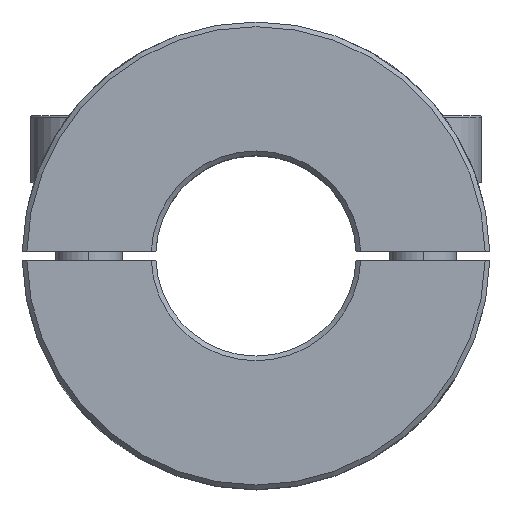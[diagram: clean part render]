
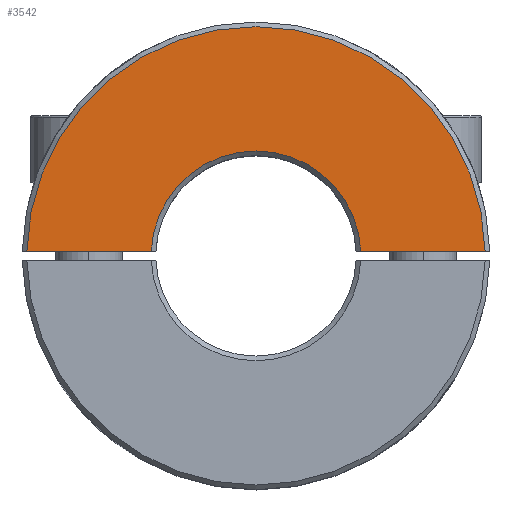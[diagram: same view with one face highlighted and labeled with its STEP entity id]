
A CAD part, top view. The second image highlights one B-rep face of the part: STEP entity #3542.
In plain terms, the highlighted planar face has unit normal (0, 0, 1).
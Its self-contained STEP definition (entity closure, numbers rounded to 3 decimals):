
#93 = DIRECTION ( 'NONE',  ( -1., 0., 0. ) ) ;
#116 = CARTESIAN_POINT ( 'NONE',  ( 0., 0., 11. ) ) ;
#231 = VERTEX_POINT ( 'NONE', #3385 ) ;
#273 = VERTEX_POINT ( 'NONE', #1892 ) ;
#401 = AXIS2_PLACEMENT_3D ( 'NONE', #1855, #1600, #93 ) ;
#432 = VERTEX_POINT ( 'NONE', #1676 ) ;
#452 = CIRCLE ( 'NONE', #3392, 6.28 ) ;
#571 = ORIENTED_EDGE ( 'NONE', *, *, #3539, .T. ) ;
#608 = ORIENTED_EDGE ( 'NONE', *, *, #2358, .T. ) ;
#687 = DIRECTION ( 'NONE',  ( 1., 0., 0. ) ) ;
#955 = DIRECTION ( 'NONE',  ( 1., 0., 0. ) ) ;
#1141 = DIRECTION ( 'NONE',  ( -1., 0., 0. ) ) ;
#1166 = CARTESIAN_POINT ( 'NONE',  ( 0., 0., 11. ) ) ;
#1235 = CARTESIAN_POINT ( 'NONE',  ( 13.717, 0.28, 11. ) ) ;
#1265 = PLANE ( 'NONE',  #401 ) ;
#1286 = DIRECTION ( 'NONE',  ( 0., 0., -1. ) ) ;
#1433 = VECTOR ( 'NONE', #955, 1000. ) ;
#1552 = EDGE_CURVE ( 'E486', #432, #231, #2119, .T. ) ;
#1600 = DIRECTION ( 'NONE',  ( 0., 0., -1. ) ) ;
#1676 = CARTESIAN_POINT ( 'NONE',  ( -13.717, 0.28, 11. ) ) ;
#1825 = CARTESIAN_POINT ( 'NONE',  ( 0., 0.28, 11. ) ) ;
#1855 = CARTESIAN_POINT ( 'NONE',  ( 0., 6.28, 11. ) ) ;
#1892 = CARTESIAN_POINT ( 'NONE',  ( 6.274, 0.28, 11. ) ) ;
#2119 = LINE ( 'NONE', #1825, #1433 ) ;
#2176 = EDGE_LOOP ( 'NONE', ( #3494, #3079, #608, #571 ) ) ;
#2337 = CIRCLE ( 'NONE', #2465, 13.72 ) ;
#2358 = EDGE_CURVE ( 'E491', #231, #273, #452, .T. ) ;
#2444 = VERTEX_POINT ( 'NONE', #1235 ) ;
#2465 = AXIS2_PLACEMENT_3D ( 'NONE', #116, #1286, #3316 ) ;
#2875 = DIRECTION ( 'NONE',  ( 0., 0., -1. ) ) ;
#3079 = ORIENTED_EDGE ( 'NONE', *, *, #1552, .T. ) ;
#3137 = EDGE_CURVE ( 'E470', #432, #2444, #2337, .T. ) ;
#3226 = FACE_OUTER_BOUND ( 'NONE', #2176, .T. ) ;
#3309 = CARTESIAN_POINT ( 'NONE',  ( 0., 0.28, 11. ) ) ;
#3316 = DIRECTION ( 'NONE',  ( -1., 0., 0. ) ) ;
#3385 = CARTESIAN_POINT ( 'NONE',  ( -6.274, 0.28, 11. ) ) ;
#3392 = AXIS2_PLACEMENT_3D ( 'NONE', #1166, #2875, #1141 ) ;
#3494 = ORIENTED_EDGE ( 'NONE', *, *, #3137, .F. ) ;
#3499 = VECTOR ( 'NONE', #687, 1000. ) ;
#3539 = EDGE_CURVE ( 'E496', #273, #2444, #3589, .T. ) ;
#3542 = ADVANCED_FACE ( 'E480', ( #3226 ), #1265, .F. ) ;
#3589 = LINE ( 'NONE', #3309, #3499 ) ;
